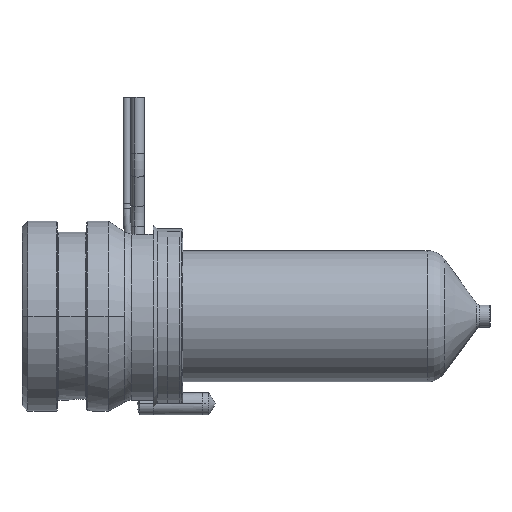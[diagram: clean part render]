
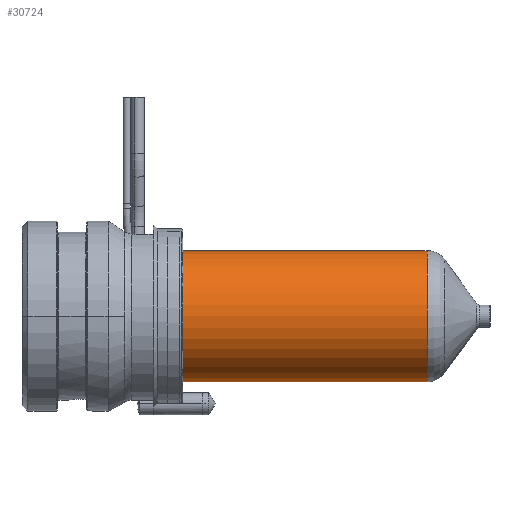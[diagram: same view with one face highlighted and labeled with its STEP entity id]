
A CAD part, left-side view. The second image highlights one B-rep face of the part: STEP entity #30724.
In plain terms, the highlighted cylindrical face has radius 9 mm (diameter 18 mm), a partial arc.
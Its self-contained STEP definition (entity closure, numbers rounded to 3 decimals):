
#30282=CARTESIAN_POINT('',(0.,-55.471,0.));
#30283=DIRECTION('',(0.,-1.,0.));
#30284=DIRECTION('',(0.,0.,1.));
#30285=AXIS2_PLACEMENT_3D('',#30282,#30283,#30284);
#30314=DIRECTION('',(0.,-1.,0.));
#30315=VECTOR('',#30314,33.471);
#30316=CARTESIAN_POINT('',(0.,-22.,9.));
#30317=LINE('',#30316,#30315);
#30329=DIRECTION('',(0.,-1.,0.));
#30330=VECTOR('',#30329,33.471);
#30331=CARTESIAN_POINT('',(0.,-22.,-9.));
#30332=LINE('',#30331,#30330);
#30336=CARTESIAN_POINT('',(0.,-22.,0.));
#30337=DIRECTION('',(0.,-1.,0.));
#30338=DIRECTION('',(0.,0.,1.));
#30339=AXIS2_PLACEMENT_3D('',#30336,#30337,#30338);
#30540=CARTESIAN_POINT('',(0.,-22.,9.));
#30541=CARTESIAN_POINT('',(0.,-55.471,9.));
#30542=VERTEX_POINT('',#30540);
#30543=VERTEX_POINT('',#30541);
#30552=CARTESIAN_POINT('',(0.,-22.,-9.));
#30553=CARTESIAN_POINT('',(0.,-55.471,-9.));
#30554=VERTEX_POINT('',#30552);
#30555=VERTEX_POINT('',#30553);
#30712=CARTESIAN_POINT('',(0.,-15.7,0.));
#30713=DIRECTION('',(0.,-1.,0.));
#30714=DIRECTION('',(0.,0.,1.));
#30715=AXIS2_PLACEMENT_3D('',#30712,#30713,#30714);
#30716=CYLINDRICAL_SURFACE('',#30715,9.);
#30717=ORIENTED_EDGE('',*,*,#30702,.T.);
#30718=ORIENTED_EDGE('',*,*,#30679,.T.);
#30719=ORIENTED_EDGE('',*,*,#30706,.F.);
#30721=ORIENTED_EDGE('',*,*,#30720,.F.);
#30722=EDGE_LOOP('',(#30717,#30718,#30719,#30721));
#30723=FACE_OUTER_BOUND('',#30722,.F.);
#30724=ADVANCED_FACE('',(#30723),#30716,.T.);
#30286=CIRCLE('',#30285,9.);
#30340=CIRCLE('',#30339,9.);
#30679=EDGE_CURVE('',#30543,#30555,#30286,.T.);
#30702=EDGE_CURVE('',#30542,#30543,#30317,.T.);
#30706=EDGE_CURVE('',#30554,#30555,#30332,.T.);
#30720=EDGE_CURVE('',#30542,#30554,#30340,.T.);
